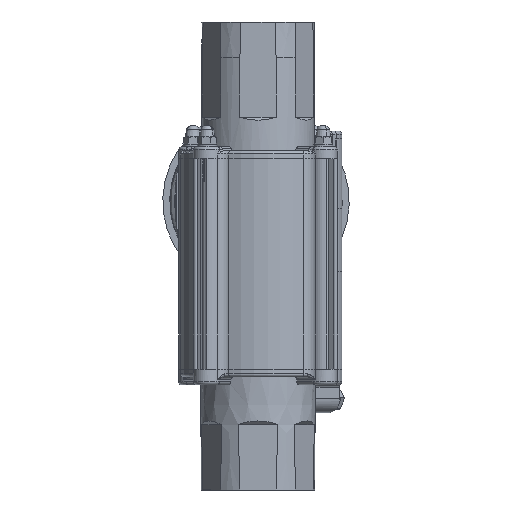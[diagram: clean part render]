
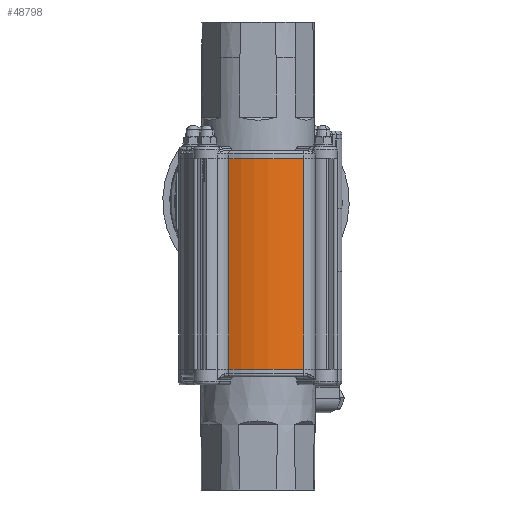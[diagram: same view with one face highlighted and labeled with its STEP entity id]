
A CAD part, front view. The second image highlights one B-rep face of the part: STEP entity #48798.
In plain terms, the highlighted cylindrical face has radius 39.1 mm (diameter 78.2 mm), a partial arc.
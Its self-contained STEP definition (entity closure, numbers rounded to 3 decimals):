
#2964 = DIRECTION ( 'NONE',  ( 1., 0., 0. ) ) ;
#3707 = VERTEX_POINT ( 'NONE', #33212 ) ;
#4344 = CARTESIAN_POINT ( 'NONE',  ( 23.18, -31.488, 0. ) ) ;
#4671 = EDGE_CURVE ( 'NONE', #28196, #34493, #49190, .T. ) ;
#6334 = ORIENTED_EDGE ( 'NONE', *, *, #27927, .F. ) ;
#9408 = ORIENTED_EDGE ( 'NONE', *, *, #4671, .T. ) ;
#13705 = CARTESIAN_POINT ( 'NONE',  ( 0., 0., 106. ) ) ;
#13842 = CIRCLE ( 'NONE', #20054, 39.1 ) ;
#14081 = AXIS2_PLACEMENT_3D ( 'NONE', #26106, #19635, #51899 ) ;
#14316 = ORIENTED_EDGE ( 'NONE', *, *, #43130, .T. ) ;
#19635 = DIRECTION ( 'NONE',  ( 0., 0., -1. ) ) ;
#20054 = AXIS2_PLACEMENT_3D ( 'NONE', #80105, #41558, #2964 ) ;
#20246 = DIRECTION ( 'NONE',  ( 1., 0., 0. ) ) ;
#22605 = CARTESIAN_POINT ( 'NONE',  ( -14.725, -36.221, 106. ) ) ;
#23759 = VECTOR ( 'NONE', #61091, 1000. ) ;
#26106 = CARTESIAN_POINT ( 'NONE',  ( 0., 0., 106. ) ) ;
#27927 = EDGE_CURVE ( 'NONE', #3707, #34493, #30918, .T. ) ;
#28196 = VERTEX_POINT ( 'NONE', #4344 ) ;
#30918 = CIRCLE ( 'NONE', #46641, 39.1 ) ;
#32771 = CYLINDRICAL_SURFACE ( 'NONE', #14081, 39.1 ) ;
#33212 = CARTESIAN_POINT ( 'NONE',  ( -14.725, -36.221, 106. ) ) ;
#34493 = VERTEX_POINT ( 'NONE', #56531 ) ;
#41558 = DIRECTION ( 'NONE',  ( 0., 0., 1. ) ) ;
#42327 = DIRECTION ( 'NONE',  ( 0., 0., 1. ) ) ;
#43130 = EDGE_CURVE ( 'NONE', #3707, #73762, #75081, .T. ) ;
#44404 = EDGE_LOOP ( 'NONE', ( #6334, #14316, #47992, #9408 ) ) ;
#46641 = AXIS2_PLACEMENT_3D ( 'NONE', #13705, #58737, #20246 ) ;
#47992 = ORIENTED_EDGE ( 'NONE', *, *, #65473, .T. ) ;
#48798 = ADVANCED_FACE ( 'NONE', ( #72998 ), #32771, .T. ) ;
#49190 = LINE ( 'NONE', #69094, #81479 ) ;
#51899 = DIRECTION ( 'NONE',  ( -1., 0., 0. ) ) ;
#56531 = CARTESIAN_POINT ( 'NONE',  ( 23.18, -31.488, 106. ) ) ;
#58737 = DIRECTION ( 'NONE',  ( 0., 0., 1. ) ) ;
#61091 = DIRECTION ( 'NONE',  ( 0., 0., -1. ) ) ;
#65473 = EDGE_CURVE ( 'NONE', #73762, #28196, #13842, .T. ) ;
#69094 = CARTESIAN_POINT ( 'NONE',  ( 23.18, -31.488, 106. ) ) ;
#72998 = FACE_OUTER_BOUND ( 'NONE', #44404, .T. ) ;
#73762 = VERTEX_POINT ( 'NONE', #79686 ) ;
#75081 = LINE ( 'NONE', #22605, #23759 ) ;
#79686 = CARTESIAN_POINT ( 'NONE',  ( -14.725, -36.221, 0. ) ) ;
#80105 = CARTESIAN_POINT ( 'NONE',  ( 0., 0., 0. ) ) ;
#81479 = VECTOR ( 'NONE', #42327, 1000. ) ;
